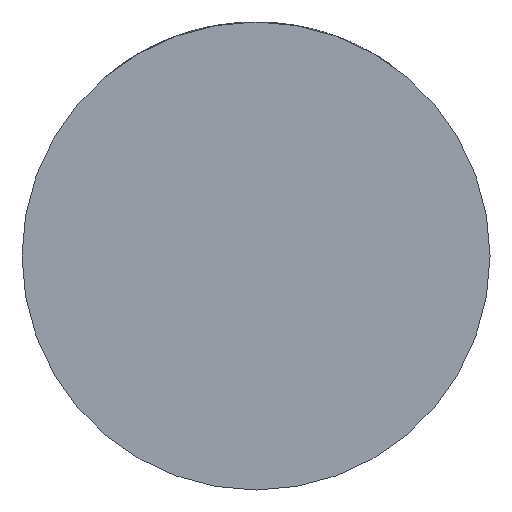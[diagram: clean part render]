
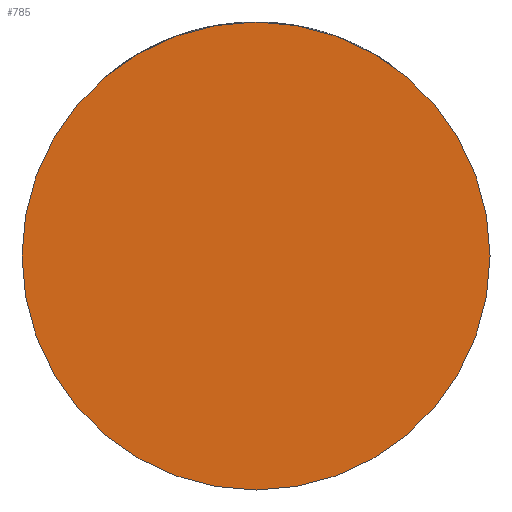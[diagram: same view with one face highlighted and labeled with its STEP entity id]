
A CAD part, front view. The second image highlights one B-rep face of the part: STEP entity #785.
In plain terms, the highlighted planar face has unit normal (0, -1, 0).
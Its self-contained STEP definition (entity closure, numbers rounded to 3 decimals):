
#51 = CARTESIAN_POINT ( 'NONE',  ( 0., -36., 0. ) ) ;
#350 = DIRECTION ( 'NONE',  ( 1., 0., 0. ) ) ;
#593 = CIRCLE ( 'NONE', #892, 39. ) ;
#780 = CARTESIAN_POINT ( 'NONE',  ( -39., -36., 0. ) ) ;
#785 = ADVANCED_FACE ( 'NONE', ( #4383 ), #4430, .T. ) ;
#888 = CARTESIAN_POINT ( 'NONE',  ( 0., -36., 0. ) ) ;
#892 = AXIS2_PLACEMENT_3D ( 'NONE', #2756, #3812, #1717 ) ;
#1290 = DIRECTION ( 'NONE',  ( 0., -1., 0. ) ) ;
#1438 = DIRECTION ( 'NONE',  ( 0., -1., 0. ) ) ;
#1467 = CIRCLE ( 'NONE', #3676, 39. ) ;
#1654 = DIRECTION ( 'NONE',  ( 1., 0., 0. ) ) ;
#1717 = DIRECTION ( 'NONE',  ( 1., 0., 0. ) ) ;
#1896 = VERTEX_POINT ( 'NONE', #780 ) ;
#2193 = ORIENTED_EDGE ( 'NONE', *, *, #2922, .T. ) ;
#2532 = ORIENTED_EDGE ( 'NONE', *, *, #4214, .T. ) ;
#2756 = CARTESIAN_POINT ( 'NONE',  ( 0., -36., 0. ) ) ;
#2922 = EDGE_CURVE ( 'NONE', #2982, #1896, #593, .T. ) ;
#2982 = VERTEX_POINT ( 'NONE', #3371 ) ;
#3235 = AXIS2_PLACEMENT_3D ( 'NONE', #888, #1290, #1654 ) ;
#3371 = CARTESIAN_POINT ( 'NONE',  ( 39., -36., 0. ) ) ;
#3676 = AXIS2_PLACEMENT_3D ( 'NONE', #51, #1438, #350 ) ;
#3812 = DIRECTION ( 'NONE',  ( 0., -1., 0. ) ) ;
#4214 = EDGE_CURVE ( 'NONE', #1896, #2982, #1467, .T. ) ;
#4279 = EDGE_LOOP ( 'NONE', ( #2532, #2193 ) ) ;
#4383 = FACE_OUTER_BOUND ( 'NONE', #4279, .T. ) ;
#4430 = PLANE ( 'NONE',  #3235 ) ;
